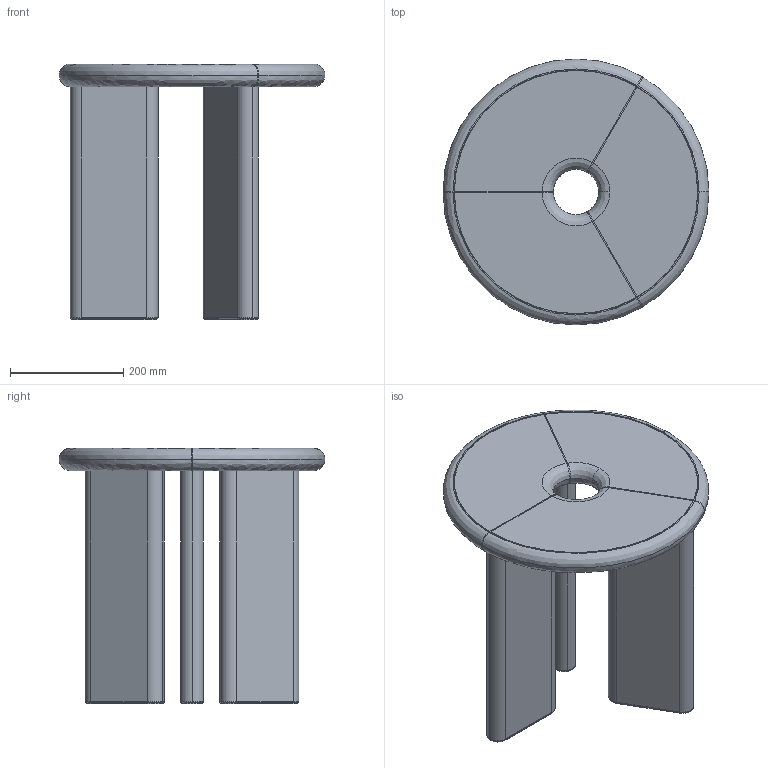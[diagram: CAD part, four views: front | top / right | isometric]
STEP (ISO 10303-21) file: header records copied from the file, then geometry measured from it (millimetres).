
FILE_DESCRIPTION(/* description */ (''),/* implementation_level */ '2;1');
FILE_NAME(/* name */ 'Deya Side Table_3D',/* time_stamp */ '2025-07-24T11:43:26+02:00',/* author */ (''),/* organization */ (''),/* preprocessor_version */ 'ST-DEVELOPER v19.2',/* originating_system */ 'Rhino 8.19',/* authorisation */ '');
FILE_SCHEMA (('CONFIG_CONTROL_DESIGN'));
Length unit declared in the file: millimetre
Products named in the file (1): Document
Bounding box: 470 x 470 x 452.2 mm (x, y, z)
Volume: 13725435.6 mm3; surface area: 934792.2 mm2
Topology: 11 solids, 11 shells, 100 faces, 212 edges, 134 vertices
Faces by surface type: plane 40, cylinder 34, bspline 26
Entity records: 3240 total; most frequent: CARTESIAN_POINT 1208, ORIENTED_EDGE 424, DIRECTION 290, EDGE_CURVE 212, AXIS2_PLACEMENT_3D 182, VERTEX_POINT 134, TRIMMED_CURVE 106, CIRCLE 106
